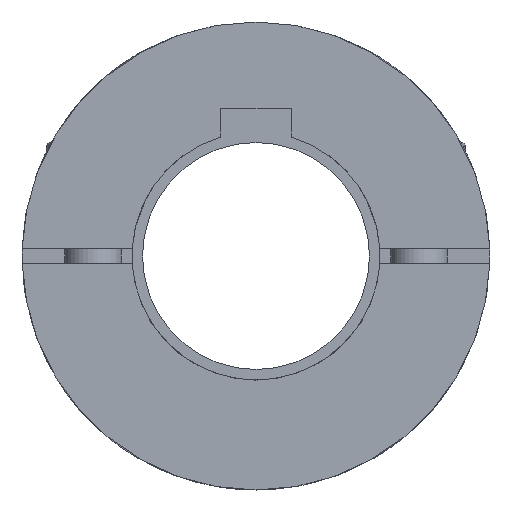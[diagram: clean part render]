
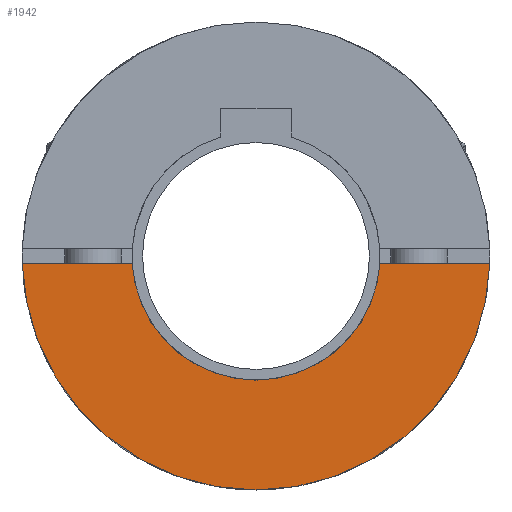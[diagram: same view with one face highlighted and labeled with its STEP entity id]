
A CAD part, left-side view. The second image highlights one B-rep face of the part: STEP entity #1942.
In plain terms, the highlighted planar face has unit normal (-1, 0, 0).
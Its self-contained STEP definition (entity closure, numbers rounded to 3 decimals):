
#65=PLANE('',#2179);
#206=LINE('',#3472,#353);
#258=LINE('',#3596,#405);
#353=VECTOR('',#2558,27.069);
#405=VECTOR('',#2694,27.069);
#556=FACE_OUTER_BOUND('',#701,.T.);
#701=EDGE_LOOP('',(#1741,#1742,#1743,#1744));
#827=CIRCLE('',#2116,17.5);
#836=CIRCLE('',#2178,33.);
#949=VERTEX_POINT('',#3406);
#950=VERTEX_POINT('',#3407);
#970=VERTEX_POINT('',#3470);
#1000=VERTEX_POINT('',#3595);
#1171=EDGE_CURVE('',#949,#950,#827,.T.);
#1203=EDGE_CURVE('',#970,#950,#206,.T.);
#1258=EDGE_CURVE('',#949,#1000,#258,.T.);
#1260=EDGE_CURVE('',#970,#1000,#836,.T.);
#1741=ORIENTED_EDGE('',*,*,#1171,.T.);
#1742=ORIENTED_EDGE('',*,*,#1203,.F.);
#1743=ORIENTED_EDGE('',*,*,#1260,.T.);
#1744=ORIENTED_EDGE('',*,*,#1258,.F.);
#1942=ADVANCED_FACE('',(#556),#65,.T.);
#2116=AXIS2_PLACEMENT_3D('',#3408,#2496,#2497);
#2178=AXIS2_PLACEMENT_3D('',#3600,#2700,#2701);
#2179=AXIS2_PLACEMENT_3D('',#3601,#2702,#2703);
#2496=DIRECTION('center_axis',(1.,0.,0.));
#2497=DIRECTION('ref_axis',(0.,0.,1.));
#2558=DIRECTION('',(0.,-1.,0.));
#2694=DIRECTION('',(0.,-1.,0.));
#2700=DIRECTION('center_axis',(-1.,0.,0.));
#2701=DIRECTION('ref_axis',(0.,1.,0.));
#2702=DIRECTION('center_axis',(-1.,0.,0.));
#2703=DIRECTION('ref_axis',(0.,-1.,0.));
#3406=CARTESIAN_POINT('',(0.,-17.471,-1.));
#3407=CARTESIAN_POINT('',(0.,17.471,-1.));
#3408=CARTESIAN_POINT('Origin',(0.,0.,0.));
#3470=CARTESIAN_POINT('',(0.,32.985,-1.));
#3472=CARTESIAN_POINT('',(0.,32.985,-1.));
#3595=CARTESIAN_POINT('',(0.,-32.985,-1.));
#3596=CARTESIAN_POINT('',(0.,-5.916,-1.));
#3600=CARTESIAN_POINT('Origin',(0.,0.,0.));
#3601=CARTESIAN_POINT('Origin',(0.,0.,-6.));
